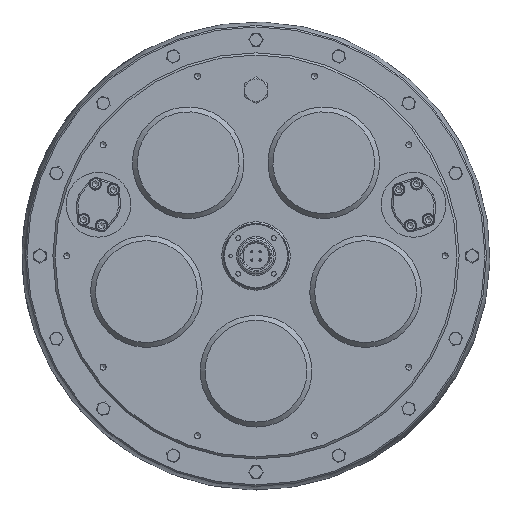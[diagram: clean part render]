
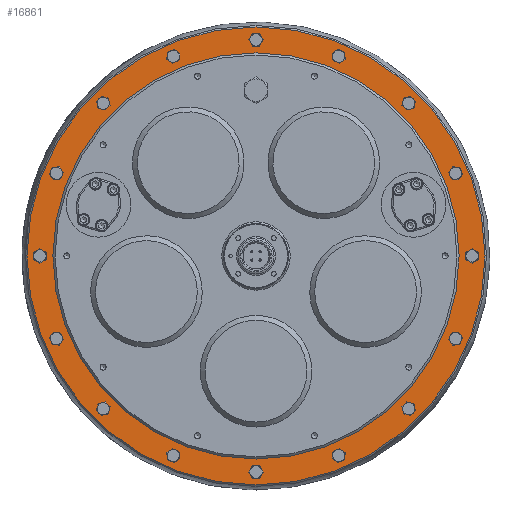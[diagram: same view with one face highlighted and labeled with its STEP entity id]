
A CAD part, front view. The second image highlights one B-rep face of the part: STEP entity #16861.
In plain terms, the highlighted planar face has unit normal (0, -1, 0).
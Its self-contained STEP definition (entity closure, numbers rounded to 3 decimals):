
#1824=PLANE('',#18530);
#3279=FACE_BOUND('',#5617,.T.);
#3280=FACE_BOUND('',#5618,.T.);
#3281=FACE_BOUND('',#5619,.T.);
#3282=FACE_BOUND('',#5620,.T.);
#3283=FACE_BOUND('',#5621,.T.);
#3284=FACE_BOUND('',#5622,.T.);
#3285=FACE_BOUND('',#5623,.T.);
#3286=FACE_BOUND('',#5624,.T.);
#3287=FACE_BOUND('',#5625,.T.);
#3288=FACE_BOUND('',#5626,.T.);
#3289=FACE_BOUND('',#5627,.T.);
#3290=FACE_BOUND('',#5628,.T.);
#3291=FACE_BOUND('',#5629,.T.);
#3292=FACE_BOUND('',#5630,.T.);
#3293=FACE_BOUND('',#5631,.T.);
#3294=FACE_BOUND('',#5632,.T.);
#3295=FACE_BOUND('',#5633,.T.);
#4132=FACE_OUTER_BOUND('',#5616,.T.);
#5616=EDGE_LOOP('',(#12977));
#5617=EDGE_LOOP('',(#12978));
#5618=EDGE_LOOP('',(#12979));
#5619=EDGE_LOOP('',(#12980));
#5620=EDGE_LOOP('',(#12981));
#5621=EDGE_LOOP('',(#12982));
#5622=EDGE_LOOP('',(#12983));
#5623=EDGE_LOOP('',(#12984));
#5624=EDGE_LOOP('',(#12985));
#5625=EDGE_LOOP('',(#12986));
#5626=EDGE_LOOP('',(#12987));
#5627=EDGE_LOOP('',(#12988));
#5628=EDGE_LOOP('',(#12989));
#5629=EDGE_LOOP('',(#12990));
#5630=EDGE_LOOP('',(#12991));
#5631=EDGE_LOOP('',(#12992));
#5632=EDGE_LOOP('',(#12993));
#5633=EDGE_LOOP('',(#12994));
#6601=CIRCLE('',#18022,7.7);
#6610=CIRCLE('',#18048,7.7);
#6619=CIRCLE('',#18074,7.7);
#6628=CIRCLE('',#18100,7.7);
#6637=CIRCLE('',#18126,7.7);
#6646=CIRCLE('',#18152,7.7);
#6655=CIRCLE('',#18178,7.7);
#6664=CIRCLE('',#18204,7.7);
#6673=CIRCLE('',#18230,7.7);
#6682=CIRCLE('',#18256,7.7);
#6691=CIRCLE('',#18282,7.7);
#6700=CIRCLE('',#18308,7.7);
#6709=CIRCLE('',#18334,7.7);
#6718=CIRCLE('',#18360,7.7);
#6727=CIRCLE('',#18386,7.7);
#6736=CIRCLE('',#18412,7.7);
#6798=CIRCLE('',#18527,282.);
#6799=CIRCLE('',#18529,318.);
#7556=VERTEX_POINT('',#25676);
#7577=VERTEX_POINT('',#25771);
#7598=VERTEX_POINT('',#25866);
#7619=VERTEX_POINT('',#25961);
#7640=VERTEX_POINT('',#26056);
#7661=VERTEX_POINT('',#26151);
#7682=VERTEX_POINT('',#26246);
#7703=VERTEX_POINT('',#26341);
#7724=VERTEX_POINT('',#26436);
#7745=VERTEX_POINT('',#26531);
#7766=VERTEX_POINT('',#26626);
#7787=VERTEX_POINT('',#26721);
#7808=VERTEX_POINT('',#26816);
#7829=VERTEX_POINT('',#26911);
#7850=VERTEX_POINT('',#27006);
#7871=VERTEX_POINT('',#27101);
#7961=VERTEX_POINT('',#27370);
#7962=VERTEX_POINT('',#27373);
#9154=EDGE_CURVE('',#7556,#7556,#6601,.T.);
#9187=EDGE_CURVE('',#7577,#7577,#6610,.T.);
#9220=EDGE_CURVE('',#7598,#7598,#6619,.T.);
#9253=EDGE_CURVE('',#7619,#7619,#6628,.T.);
#9286=EDGE_CURVE('',#7640,#7640,#6637,.T.);
#9319=EDGE_CURVE('',#7661,#7661,#6646,.T.);
#9352=EDGE_CURVE('',#7682,#7682,#6655,.T.);
#9385=EDGE_CURVE('',#7703,#7703,#6664,.T.);
#9418=EDGE_CURVE('',#7724,#7724,#6673,.T.);
#9451=EDGE_CURVE('',#7745,#7745,#6682,.T.);
#9484=EDGE_CURVE('',#7766,#7766,#6691,.T.);
#9517=EDGE_CURVE('',#7787,#7787,#6700,.T.);
#9550=EDGE_CURVE('',#7808,#7808,#6709,.T.);
#9583=EDGE_CURVE('',#7829,#7829,#6718,.T.);
#9616=EDGE_CURVE('',#7850,#7850,#6727,.T.);
#9649=EDGE_CURVE('',#7871,#7871,#6736,.T.);
#9751=EDGE_CURVE('',#7961,#7961,#6798,.T.);
#9752=EDGE_CURVE('',#7962,#7962,#6799,.T.);
#12977=ORIENTED_EDGE('',*,*,#9752,.F.);
#12978=ORIENTED_EDGE('',*,*,#9649,.T.);
#12979=ORIENTED_EDGE('',*,*,#9616,.T.);
#12980=ORIENTED_EDGE('',*,*,#9583,.T.);
#12981=ORIENTED_EDGE('',*,*,#9550,.T.);
#12982=ORIENTED_EDGE('',*,*,#9517,.T.);
#12983=ORIENTED_EDGE('',*,*,#9484,.T.);
#12984=ORIENTED_EDGE('',*,*,#9451,.T.);
#12985=ORIENTED_EDGE('',*,*,#9418,.T.);
#12986=ORIENTED_EDGE('',*,*,#9385,.T.);
#12987=ORIENTED_EDGE('',*,*,#9352,.T.);
#12988=ORIENTED_EDGE('',*,*,#9319,.T.);
#12989=ORIENTED_EDGE('',*,*,#9286,.T.);
#12990=ORIENTED_EDGE('',*,*,#9253,.T.);
#12991=ORIENTED_EDGE('',*,*,#9220,.T.);
#12992=ORIENTED_EDGE('',*,*,#9187,.T.);
#12993=ORIENTED_EDGE('',*,*,#9154,.T.);
#12994=ORIENTED_EDGE('',*,*,#9751,.T.);
#16861=ADVANCED_FACE('',(#4132,#3279,#3280,#3281,#3282,#3283,#3284,#3285,
#3286,#3287,#3288,#3289,#3290,#3291,#3292,#3293,#3294,#3295),#1824,.F.);
#18022=AXIS2_PLACEMENT_3D('',#25677,#20811,#20812);
#18048=AXIS2_PLACEMENT_3D('',#25772,#20875,#20876);
#18074=AXIS2_PLACEMENT_3D('',#25867,#20939,#20940);
#18100=AXIS2_PLACEMENT_3D('',#25962,#21003,#21004);
#18126=AXIS2_PLACEMENT_3D('',#26057,#21067,#21068);
#18152=AXIS2_PLACEMENT_3D('',#26152,#21131,#21132);
#18178=AXIS2_PLACEMENT_3D('',#26247,#21195,#21196);
#18204=AXIS2_PLACEMENT_3D('',#26342,#21259,#21260);
#18230=AXIS2_PLACEMENT_3D('',#26437,#21323,#21324);
#18256=AXIS2_PLACEMENT_3D('',#26532,#21387,#21388);
#18282=AXIS2_PLACEMENT_3D('',#26627,#21451,#21452);
#18308=AXIS2_PLACEMENT_3D('',#26722,#21515,#21516);
#18334=AXIS2_PLACEMENT_3D('',#26817,#21579,#21580);
#18360=AXIS2_PLACEMENT_3D('',#26912,#21643,#21644);
#18386=AXIS2_PLACEMENT_3D('',#27007,#21707,#21708);
#18412=AXIS2_PLACEMENT_3D('',#27102,#21771,#21772);
#18527=AXIS2_PLACEMENT_3D('',#27371,#22029,#22030);
#18529=AXIS2_PLACEMENT_3D('',#27374,#22033,#22034);
#18530=AXIS2_PLACEMENT_3D('',#27375,#22035,#22036);
#20811=DIRECTION('center_axis',(0.,1.,0.));
#20812=DIRECTION('ref_axis',(-1.,0.,0.));
#20875=DIRECTION('center_axis',(0.,1.,0.));
#20876=DIRECTION('ref_axis',(-0.924,0.,-0.383));
#20939=DIRECTION('center_axis',(0.,1.,0.));
#20940=DIRECTION('ref_axis',(-0.707,0.,-0.707));
#21003=DIRECTION('center_axis',(0.,1.,0.));
#21004=DIRECTION('ref_axis',(-0.383,0.,-0.924));
#21067=DIRECTION('center_axis',(0.,1.,0.));
#21068=DIRECTION('ref_axis',(0.,0.,
-1.));
#21131=DIRECTION('center_axis',(0.,1.,0.));
#21132=DIRECTION('ref_axis',(0.383,0.,-0.924));
#21195=DIRECTION('center_axis',(0.,1.,0.));
#21196=DIRECTION('ref_axis',(0.707,0.,-0.707));
#21259=DIRECTION('center_axis',(0.,1.,0.));
#21260=DIRECTION('ref_axis',(0.924,0.,-0.383));
#21323=DIRECTION('center_axis',(0.,1.,0.));
#21324=DIRECTION('ref_axis',(1.,0.,0.));
#21387=DIRECTION('center_axis',(0.,1.,0.));
#21388=DIRECTION('ref_axis',(0.924,0.,0.383));
#21451=DIRECTION('center_axis',(0.,1.,0.));
#21452=DIRECTION('ref_axis',(0.707,0.,0.707));
#21515=DIRECTION('center_axis',(0.,1.,0.));
#21516=DIRECTION('ref_axis',(0.383,0.,0.924));
#21579=DIRECTION('center_axis',(0.,1.,0.));
#21580=DIRECTION('ref_axis',(0.,0.,
1.));
#21643=DIRECTION('center_axis',(0.,1.,0.));
#21644=DIRECTION('ref_axis',(-0.383,0.,0.924));
#21707=DIRECTION('center_axis',(0.,1.,0.));
#21708=DIRECTION('ref_axis',(-0.707,0.,0.707));
#21771=DIRECTION('center_axis',(0.,1.,0.));
#21772=DIRECTION('ref_axis',(-0.924,0.,0.383));
#22029=DIRECTION('center_axis',(0.,1.,0.));
#22030=DIRECTION('ref_axis',(-1.,0.,0.));
#22033=DIRECTION('center_axis',(0.,1.,0.));
#22034=DIRECTION('ref_axis',(0.,0.,
1.));
#22035=DIRECTION('center_axis',(0.,1.,0.));
#22036=DIRECTION('ref_axis',(0.,0.,1.));
#25676=CARTESIAN_POINT('',(-7.7,464.5,300.));
#25677=CARTESIAN_POINT('Origin',(0.,464.5,
300.));
#25771=CARTESIAN_POINT('',(-121.919,464.5,274.217));
#25772=CARTESIAN_POINT('Origin',(-114.805,464.5,277.164));
#25866=CARTESIAN_POINT('',(-217.577,464.5,206.687));
#25867=CARTESIAN_POINT('Origin',(-212.132,464.5,212.132));
#25961=CARTESIAN_POINT('',(-280.111,464.5,107.691));
#25962=CARTESIAN_POINT('Origin',(-277.164,464.5,114.805));
#26056=CARTESIAN_POINT('',(-300.,464.5,-7.7));
#26057=CARTESIAN_POINT('Origin',(-300.,464.5,0.));
#26151=CARTESIAN_POINT('',(-274.217,464.5,-121.919));
#26152=CARTESIAN_POINT('Origin',(-277.164,464.5,-114.805));
#26246=CARTESIAN_POINT('',(-206.687,464.5,-217.577));
#26247=CARTESIAN_POINT('Origin',(-212.132,464.5,-212.132));
#26341=CARTESIAN_POINT('',(-107.691,464.5,-280.111));
#26342=CARTESIAN_POINT('Origin',(-114.805,464.5,-277.164));
#26436=CARTESIAN_POINT('',(7.7,464.5,-300.));
#26437=CARTESIAN_POINT('Origin',(0.,464.5,-300.));
#26531=CARTESIAN_POINT('',(121.919,464.5,-274.217));
#26532=CARTESIAN_POINT('Origin',(114.805,464.5,-277.164));
#26626=CARTESIAN_POINT('',(217.577,464.5,-206.687));
#26627=CARTESIAN_POINT('Origin',(212.132,464.5,-212.132));
#26721=CARTESIAN_POINT('',(280.111,464.5,-107.691));
#26722=CARTESIAN_POINT('Origin',(277.164,464.5,-114.805));
#26816=CARTESIAN_POINT('',(300.,464.5,7.7));
#26817=CARTESIAN_POINT('Origin',(300.,464.5,0.));
#26911=CARTESIAN_POINT('',(274.217,464.5,121.919));
#26912=CARTESIAN_POINT('Origin',(277.164,464.5,114.805));
#27006=CARTESIAN_POINT('',(206.687,464.5,217.577));
#27007=CARTESIAN_POINT('Origin',(212.132,464.5,212.132));
#27101=CARTESIAN_POINT('',(107.691,464.5,280.111));
#27102=CARTESIAN_POINT('Origin',(114.805,464.5,277.164));
#27370=CARTESIAN_POINT('',(-282.,464.5,0.));
#27371=CARTESIAN_POINT('Origin',(0.,464.5,
0.));
#27373=CARTESIAN_POINT('',(0.,464.5,-318.));
#27374=CARTESIAN_POINT('Origin',(0.,464.5,
0.));
#27375=CARTESIAN_POINT('Origin',(-301.,464.5,0.));
